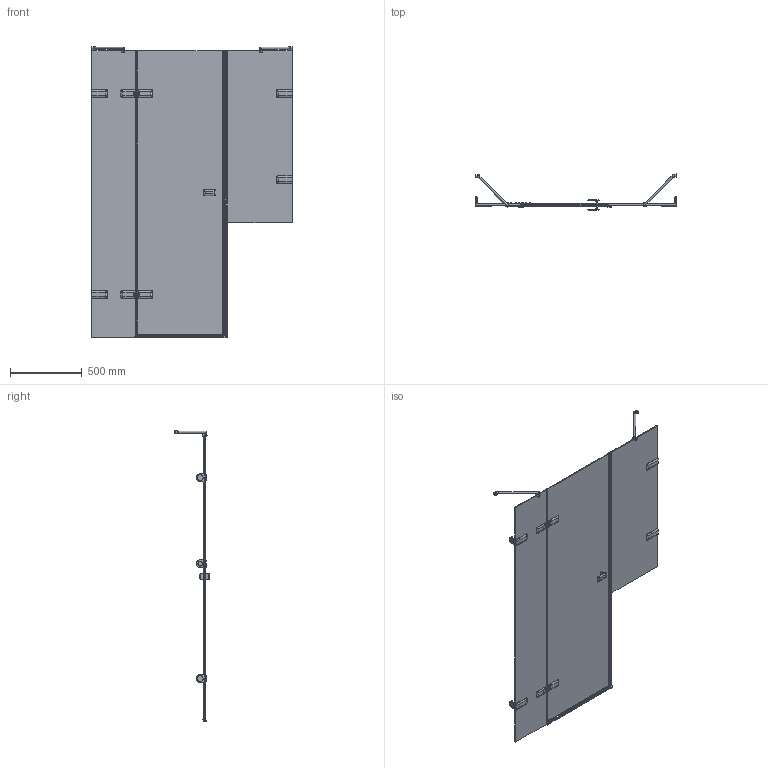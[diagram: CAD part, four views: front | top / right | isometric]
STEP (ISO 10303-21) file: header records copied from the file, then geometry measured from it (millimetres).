
FILE_DESCRIPTION(/* description */ (''),/* implementation_level */ '2;1');
FILE_NAME(/* name */ 'E:\Работа\Сергей\Душевые кабинки\! Работа\!!!!!!!!!!!!!!\TREND DOOR GK-863BLTWO\TREND DOOR GK-863BLTWO левая модель\TREND DOOR GK-863BLTWO ЛЕВАЯ-3D.stp',/* time_stamp */ '2018-04-10T20:19:00+03:00',/* author */ ('PC'),/* organization */ (''),/* preprocessor_version */ 'ST-DEVELOPER v15.2',/* originating_system */ 'Autodesk Inventor 2014',/* authorisation */ '');
FILE_SCHEMA (('AUTOMOTIVE_DESIGN { 1 0 10303 214 3 1 1 }'));
Products named in the file (1): TREND DOOR GK-863BLTWO ЛЕВАЯ-3D
Bounding box: 1400 x 249.9 x 2031.5 mm (x, y, z)
Volume: 18096099.3 mm3; surface area: 5248632.5 mm2
Topology: 10 solids, 10 shells, 1452 faces, 3739 edges, 2295 vertices
Faces by surface type: plane 849, cylinder 345, bspline 162, torus 52, sphere 22, cone 22
Full cylindrical faces by diameter (mm): 4.5 x3, 6 x2, 9 x8, 12 x2, 13 x2, 15 x2, 20 x4, 26 x2, 40 x4
Entity records: 61929 total; most frequent: CARTESIAN_POINT 26451, ORIENTED_EDGE 7180, DIRECTION 6846, EDGE_CURVE 3590, AXIS2_PLACEMENT_3D 2323, VERTEX_POINT 2265, LINE 2200, VECTOR 2200
